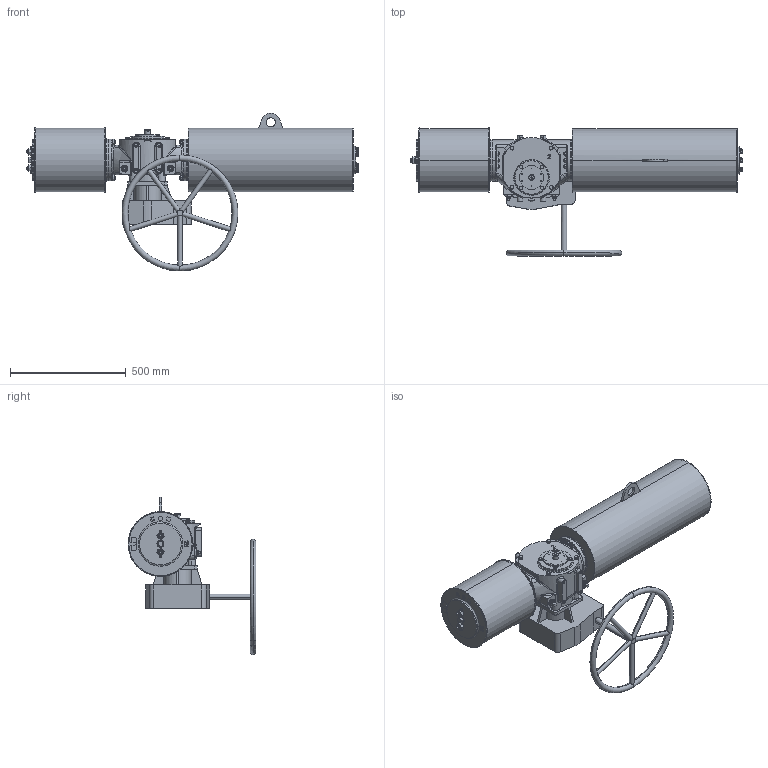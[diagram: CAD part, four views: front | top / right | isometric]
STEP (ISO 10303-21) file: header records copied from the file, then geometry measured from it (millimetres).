
FILE_DESCRIPTION (( 'STEP AP203' ), '1' );
FILE_NAME ('VTS2-250-SR-MW-FC.STEP', '2023-01-01T08:00:09', ( '' ), ( '' ), 'SwSTEP 2.0', 'SolidWorks 2020', '' );
FILE_SCHEMA (( 'CONFIG_CONTROL_DESIGN' ));
Length unit declared in the file: millimetre
Products named in the file (1): VTS2-250-SR-MW-FC
Bounding box: 1433.78 x 552.39 x 681.5 mm (x, y, z)
Volume: 81737063.9 mm3; surface area: 2398966 mm2
Topology: 9 solids, 11 shells, 2035 faces, 5189 edges, 3261 vertices
Faces by surface type: plane 817, cylinder 636, cone 420, bspline 158, torus 4
Entity records: 77075 total; most frequent: CARTESIAN_POINT 29083, ORIENTED_EDGE 10262, DIRECTION 9827, EDGE_CURVE 5131, AXIS2_PLACEMENT_3D 3838, VERTEX_POINT 3261, EDGE_LOOP 2260, VECTOR 2151
